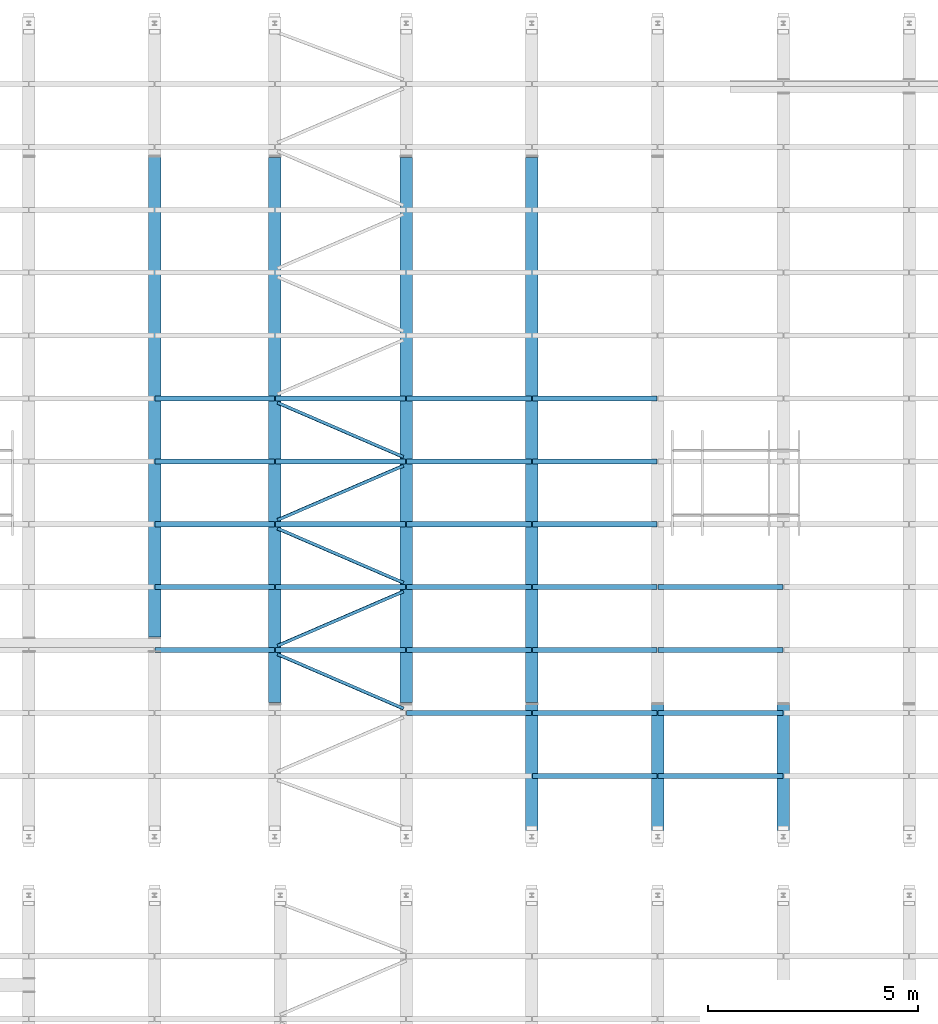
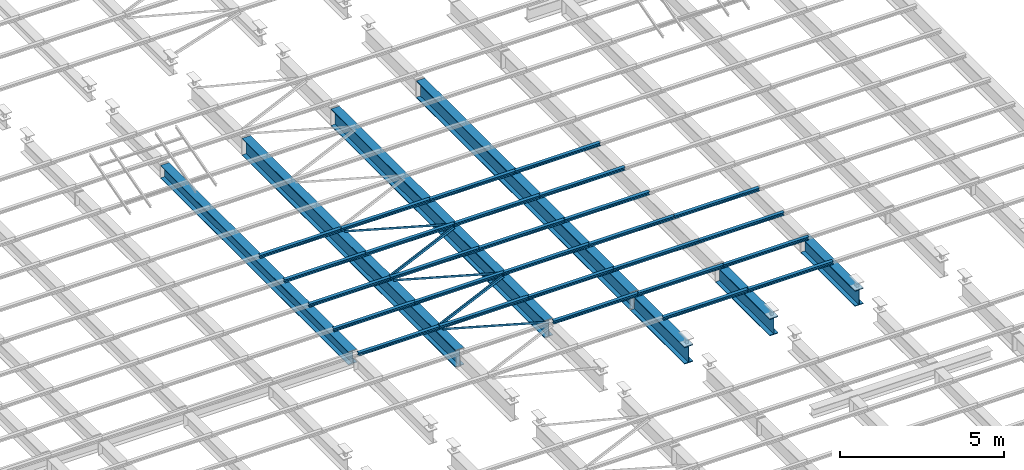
# One storey, part 48 of 139: 39 beams.
"""IFC2X3 building model written with IfcOpenShell, lengths in metres."""

from ifc_helpers import new_model, entity, si_unit, converted_unit, derived_unit, frame, origin, place, context, subcontext, project, spatial, polyline, outline, extrude, material, element, save


model = new_model("IFC2X3")

# Units and contexts
model_context = context("Model", 3, precision=1e-05, world=origin())
body_context = subcontext(model_context, "Body", "Model", "MODEL_VIEW")
ifc_project = project(units=[si_unit("LENGTHUNIT", "METRE"), si_unit("AREAUNIT", "SQUARE_METRE"), si_unit("VOLUMEUNIT", "CUBIC_METRE"), si_unit("MASSUNIT", "GRAM", prefix="KILO"), converted_unit("PLANEANGLEUNIT", "DEGREE", entity("IfcPlaneAngleMeasure", 0.0174532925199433), si_unit("PLANEANGLEUNIT", "RADIAN"), dimensions=[0, 0, 0, 0, 0, 0, 0]), derived_unit("THERMALTRANSMITTANCEUNIT", [(si_unit("POWERUNIT", "WATT"), 1), (si_unit("THERMODYNAMICTEMPERATUREUNIT", "KELVIN"), -1), (si_unit("LENGTHUNIT", "METRE"), -2)]), derived_unit("VOLUMETRICFLOWRATEUNIT", [(si_unit("LENGTHUNIT", "METRE"), 3), (converted_unit("TIMEUNIT", "hour", entity("IfcTimeMeasure", 3600.0), si_unit("TIMEUNIT", "SECOND"), dimensions=[0, 0, 1, 0, 0, 0, 0]), -1), (si_unit("LENGTHUNIT", "METRE"), -1)])], contexts=[model_context])

# Site, building, storey
site_placement = place(None, origin())
site = spatial("IfcSite", under=ifc_project, at=site_placement, Name="TWP_Speiseverteilzentrum SBW VZ II", CompositionType="ELEMENT")
building_placement = place(site_placement, origin())
building = spatial("IfcBuilding", under=site, at=building_placement, Name="Speiseverteilzentrum SBW VZ II", CompositionType="ELEMENT")
storey_placement = place(building_placement, frame((0.0, 0.0, 7.1307)))
storey = spatial("IfcBuildingStorey", under=building, at=storey_placement, Name="Wartung_FFB", CompositionType="ELEMENT", Elevation=7.1307)

# Beams
ifc_material_1 = material(Name="S235")
beam_1_placement = place(storey_placement, frame((49.0500000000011, 47.7020742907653, -0.51), z_axis=(0.0, 0.0, 1.0), x_axis=(-1.0, 0.0, 0.0)))
element("IfcBeam", 1, at=beam_1_placement, inside=storey, material=ifc_material_1, Name="Stahlträger", context=body_context, shape_type="SweptSolid", body=[
    extrude(outline(polyline([(-0.15, 0.32), (-0.15, 0.294), (-0.00675000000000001, 0.294), (-0.00675000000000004, -0.294), (-0.15, -0.294), (-0.15, -0.32), (0.15, -0.32), (0.15, -0.294), (0.00674999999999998, -0.294), (0.00675000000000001, 0.294), (0.15, 0.294), (0.15, 0.32), (-0.15, 0.32)])), frame((0.0, 0.0, 0.0), z_axis=(0.0, 1.0, 0.0), x_axis=(-1.0, 0.0, 0.0)), (0.0, 0.0, 1.0), 13.0041485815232),
])
ifc_material_2 = material(Name="S235")
beam_2_placement = place(storey_placement, frame((52.0500000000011, 47.7020742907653, -0.51), z_axis=(0.0, 0.0, 1.0), x_axis=(-1.0, 0.0, 0.0)))
element("IfcBeam", 2, at=beam_2_placement, inside=storey, material=ifc_material_2, Name="Stahlträger", context=body_context, shape_type="SweptSolid", body=[
    extrude(outline(polyline([(-0.15, 0.32), (-0.15, 0.294), (-0.00675000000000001, 0.294), (-0.00675000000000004, -0.294), (-0.15, -0.294), (-0.15, -0.32), (0.15, -0.32), (0.15, -0.294), (0.00674999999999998, -0.294), (0.00675000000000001, 0.294), (0.15, 0.294), (0.15, 0.32), (-0.15, 0.32)])), frame((0.0, 0.0, 0.0), z_axis=(0.0, 1.0, 0.0), x_axis=(-1.0, 0.0, 0.0)), (0.0, 0.0, 1.0), 13.0041485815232),
])
ifc_material_3 = material(Name="S235")
beam_3_placement = place(storey_placement, frame((43.0500000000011, 47.7070000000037, -0.435), z_axis=(0.0, 0.0, 1.0), x_axis=(-1.0, 0.0, 0.0)))
element("IfcBeam", 3, at=beam_3_placement, inside=storey, material=ifc_material_3, Name="Stahlträger", context=body_context, shape_type="SweptSolid", body=[
    extrude(outline(polyline([(-0.15, 0.245), (-0.15, 0.222), (-0.00599999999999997, 0.222), (-0.006, -0.222), (-0.15, -0.222), (-0.15, -0.245), (0.15, -0.245), (0.15, -0.222), (0.00600000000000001, -0.222), (0.00600000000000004, 0.222), (0.15, 0.222), (0.15, 0.245), (-0.15, 0.245)])), frame((0.0, 0.0, 0.0), z_axis=(0.0, 1.0, 0.0), x_axis=(-1.0, 0.0, 0.0)), (0.0, 0.0, 1.0), 11.4521521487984),
])
ifc_material_4 = material(Name="S235")
beam_4_placement = place(storey_placement, frame((45.9200000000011, 47.7020742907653, -0.51), z_axis=(0.0, 0.0, 1.0), x_axis=(-1.0, 0.0, 0.0)))
element("IfcBeam", 4, at=beam_4_placement, inside=storey, material=ifc_material_4, Name="Stahlträger", context=body_context, shape_type="SweptSolid", body=[
    extrude(outline(polyline([(-0.15, 0.32), (-0.15, 0.294), (-0.00675000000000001, 0.294), (-0.00675000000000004, -0.294), (-0.15, -0.294), (-0.15, -0.32), (0.15, -0.32), (0.15, -0.294), (0.00674999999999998, -0.294), (0.00675000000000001, 0.294), (0.15, 0.294), (0.15, 0.32), (-0.15, 0.32)])), frame((0.0, 0.0, 0.0), z_axis=(0.0, 1.0, 0.0), x_axis=(-1.0, 0.0, 0.0)), (0.0, 0.0, 1.0), 13.0041485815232),
])
ifc_material_5 = material(Name="S235")
beam_5_placement = place(storey_placement, frame((52.0500000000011, 34.6479257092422, -0.51), z_axis=(0.0, 0.0, 1.0), x_axis=(-1.0, 0.0, 0.0)))
element("IfcBeam", 5, at=beam_5_placement, inside=storey, material=ifc_material_5, Name="Stahlträger", context=body_context, shape_type="SweptSolid", body=[
    extrude(outline(polyline([(-0.15, 0.32), (-0.15, 0.294), (-0.00675000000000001, 0.294), (-0.00675000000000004, -0.294), (-0.15, -0.294), (-0.15, -0.32), (0.15, -0.32), (0.15, -0.294), (0.00674999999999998, -0.294), (0.00675000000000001, 0.294), (0.15, 0.294), (0.15, 0.32), (-0.15, 0.32)])), frame((0.0, 0.0, 0.0), z_axis=(0.0, 1.0, 0.0), x_axis=(-1.0, 0.0, 0.0)), (0.0, 0.0, 1.0), 3.29792570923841),
])
ifc_material_6 = material(Name="S235")
beam_6_placement = place(storey_placement, frame((55.0500000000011, 34.6479257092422, -0.51), z_axis=(0.0, 0.0, 1.0), x_axis=(-1.0, 0.0, 0.0)))
element("IfcBeam", 6, at=beam_6_placement, inside=storey, material=ifc_material_6, Name="Stahlträger", context=body_context, shape_type="SweptSolid", body=[
    extrude(outline(polyline([(-0.15, 0.32), (-0.15, 0.294), (-0.00675000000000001, 0.294), (-0.00675000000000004, -0.294), (-0.15, -0.294), (-0.15, -0.32), (0.15, -0.32), (0.15, -0.294), (0.00674999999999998, -0.294), (0.00675000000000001, 0.294), (0.15, 0.294), (0.15, 0.32), (-0.15, 0.32)])), frame((0.0, 0.0, 0.0), z_axis=(0.0, 1.0, 0.0), x_axis=(-1.0, 0.0, 0.0)), (0.0, 0.0, 1.0), 3.29792570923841),
])
ifc_material_7 = material(Name="S235")
beam_7_placement = place(storey_placement, frame((58.0500000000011, 34.6479257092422, -0.485), z_axis=(0.0, 0.0, 1.0), x_axis=(-1.0, 0.0, 0.0)))
element("IfcBeam", 7, at=beam_7_placement, inside=storey, material=ifc_material_7, Name="Stahlträger", context=body_context, shape_type="SweptSolid", body=[
    extrude(outline(polyline([(-0.15, 0.295), (-0.15, 0.27), (-0.0065, 0.27), (-0.00650000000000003, -0.27), (-0.15, -0.27), (-0.15, -0.295), (0.15, -0.295), (0.15, -0.27), (0.00649999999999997, -0.27), (0.00650000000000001, 0.27), (0.15, 0.27), (0.15, 0.295), (-0.15, 0.295)])), frame((0.0, 0.0, 0.0), z_axis=(0.0, 1.0, 0.0), x_axis=(-1.0, 0.0, 0.0)), (0.0, 0.0, 1.0), 3.29792570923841),
])
ifc_material_8 = material(Name="S235")
beam_8_placement = place(storey_placement, frame((49.0600000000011, 41.9500000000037, -0.133), z_axis=(0.0, 0.0, 1.0), x_axis=(0.0, -1.0, 0.0)))
element("IfcBeam", 8, at=beam_8_placement, inside=storey, material=ifc_material_8, Name="Nebenträger", context=body_context, shape_type="SweptSolid", body=[
    extrude(outline(polyline([(-0.06, 0.0570000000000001), (-0.06, 0.0490000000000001), (-0.00249999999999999, 0.0490000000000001), (-0.0025, -0.0489999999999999), (-0.06, -0.0489999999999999), (-0.06, -0.0569999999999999), (0.06, -0.0569999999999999), (0.06, -0.0489999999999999), (0.0025, -0.0489999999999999), (0.00250000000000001, 0.0490000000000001), (0.06, 0.0490000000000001), (0.06, 0.0570000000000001), (-0.06, 0.0570000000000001)])), frame((0.0, 0.0, 0.0), z_axis=(0.0, 1.0, 0.0), x_axis=(-1.0, 0.0, 0.0)), (0.0, 0.0, 1.0), 2.98),
])
ifc_material_9 = material(Name="S235")
beam_9_placement = place(storey_placement, frame((52.0600000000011, 41.9500000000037, -0.133), z_axis=(0.0, 0.0, 1.0), x_axis=(0.0, -1.0, 0.0)))
element("IfcBeam", 9, at=beam_9_placement, inside=storey, material=ifc_material_9, Name="Nebenträger", context=body_context, shape_type="SweptSolid", body=[
    extrude(outline(polyline([(-0.06, 0.0570000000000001), (-0.06, 0.0490000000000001), (-0.00249999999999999, 0.0490000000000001), (-0.0025, -0.0489999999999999), (-0.06, -0.0489999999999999), (-0.06, -0.0569999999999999), (0.06, -0.0569999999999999), (0.06, -0.0489999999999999), (0.0025, -0.0489999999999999), (0.00250000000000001, 0.0490000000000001), (0.06, 0.0490000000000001), (0.06, 0.0570000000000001), (-0.06, 0.0570000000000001)])), frame((0.0, 0.0, 0.0), z_axis=(0.0, 1.0, 0.0), x_axis=(-1.0, 0.0, 0.0)), (0.0, 0.0, 1.0), 2.98),
])
ifc_material_10 = material(Name="S235")
beam_10_placement = place(storey_placement, frame((49.0600000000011, 40.4500000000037, -0.133), z_axis=(0.0, 0.0, 1.0), x_axis=(0.0, -1.0, 0.0)))
element("IfcBeam", 10, at=beam_10_placement, inside=storey, material=ifc_material_10, Name="Nebenträger", context=body_context, shape_type="SweptSolid", body=[
    extrude(outline(polyline([(-0.06, 0.0570000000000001), (-0.06, 0.0490000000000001), (-0.00249999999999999, 0.0490000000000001), (-0.0025, -0.0489999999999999), (-0.06, -0.0489999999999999), (-0.06, -0.0569999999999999), (0.06, -0.0569999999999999), (0.06, -0.0489999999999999), (0.0025, -0.0489999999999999), (0.00250000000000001, 0.0490000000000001), (0.06, 0.0490000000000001), (0.06, 0.0570000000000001), (-0.06, 0.0570000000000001)])), frame((0.0, 0.0, 0.0), z_axis=(0.0, 1.0, 0.0), x_axis=(-1.0, 0.0, 0.0)), (0.0, 0.0, 1.0), 2.98),
])
ifc_material_11 = material(Name="S235")
beam_11_placement = place(storey_placement, frame((52.0600000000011, 40.4500000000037, -0.133), z_axis=(0.0, 0.0, 1.0), x_axis=(0.0, -1.0, 0.0)))
element("IfcBeam", 11, at=beam_11_placement, inside=storey, material=ifc_material_11, Name="Nebenträger", context=body_context, shape_type="SweptSolid", body=[
    extrude(outline(polyline([(-0.06, 0.0570000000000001), (-0.06, 0.0490000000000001), (-0.00249999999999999, 0.0490000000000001), (-0.0025, -0.0489999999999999), (-0.06, -0.0489999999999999), (-0.06, -0.0569999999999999), (0.06, -0.0569999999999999), (0.06, -0.0489999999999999), (0.0025, -0.0489999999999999), (0.00250000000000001, 0.0490000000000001), (0.06, 0.0490000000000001), (0.06, 0.0570000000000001), (-0.06, 0.0570000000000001)])), frame((0.0, 0.0, 0.0), z_axis=(0.0, 1.0, 0.0), x_axis=(-1.0, 0.0, 0.0)), (0.0, 0.0, 1.0), 2.98),
])
ifc_material_12 = material(Name="S235")
beam_12_placement = place(storey_placement, frame((49.0600000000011, 38.9500000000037, -0.133), z_axis=(0.0, 0.0, 1.0), x_axis=(0.0, -1.0, 0.0)))
element("IfcBeam", 12, at=beam_12_placement, inside=storey, material=ifc_material_12, Name="Nebenträger", context=body_context, shape_type="SweptSolid", body=[
    extrude(outline(polyline([(-0.06, 0.0570000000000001), (-0.06, 0.0490000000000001), (-0.00249999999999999, 0.0490000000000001), (-0.0025, -0.0489999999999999), (-0.06, -0.0489999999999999), (-0.06, -0.0569999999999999), (0.06, -0.0569999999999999), (0.06, -0.0489999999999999), (0.0025, -0.0489999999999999), (0.00250000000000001, 0.0490000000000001), (0.06, 0.0490000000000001), (0.06, 0.0570000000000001), (-0.06, 0.0570000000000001)])), frame((0.0, 0.0, 0.0), z_axis=(0.0, 1.0, 0.0), x_axis=(-1.0, 0.0, 0.0)), (0.0, 0.0, 1.0), 2.98),
])
ifc_material_13 = material(Name="S235")
beam_13_placement = place(storey_placement, frame((52.0600000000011, 38.9500000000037, -0.133), z_axis=(0.0, 0.0, 1.0), x_axis=(0.0, -1.0, 0.0)))
element("IfcBeam", 13, at=beam_13_placement, inside=storey, material=ifc_material_13, Name="Nebenträger", context=body_context, shape_type="SweptSolid", body=[
    extrude(outline(polyline([(-0.06, 0.0570000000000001), (-0.06, 0.0490000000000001), (-0.00249999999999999, 0.0490000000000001), (-0.0025, -0.0489999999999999), (-0.06, -0.0489999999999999), (-0.06, -0.0569999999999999), (0.06, -0.0569999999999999), (0.06, -0.0489999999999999), (0.0025, -0.0489999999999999), (0.00250000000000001, 0.0490000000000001), (0.06, 0.0490000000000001), (0.06, 0.0570000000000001), (-0.06, 0.0570000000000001)])), frame((0.0, 0.0, 0.0), z_axis=(0.0, 1.0, 0.0), x_axis=(-1.0, 0.0, 0.0)), (0.0, 0.0, 1.0), 2.98),
])
ifc_material_14 = material(Name="S235")
beam_14_placement = place(storey_placement, frame((49.0600000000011, 37.4500000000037, -0.133), z_axis=(0.0, 0.0, 1.0), x_axis=(0.0, -1.0, 0.0)))
element("IfcBeam", 14, at=beam_14_placement, inside=storey, material=ifc_material_14, Name="Nebenträger", context=body_context, shape_type="SweptSolid", body=[
    extrude(outline(polyline([(-0.06, 0.0570000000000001), (-0.06, 0.0490000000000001), (-0.00249999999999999, 0.0490000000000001), (-0.0025, -0.0489999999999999), (-0.06, -0.0489999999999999), (-0.06, -0.0569999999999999), (0.06, -0.0569999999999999), (0.06, -0.0489999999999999), (0.0025, -0.0489999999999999), (0.00250000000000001, 0.0490000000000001), (0.06, 0.0490000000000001), (0.06, 0.0570000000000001), (-0.06, 0.0570000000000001)])), frame((0.0, 0.0, 0.0), z_axis=(0.0, 1.0, 0.0), x_axis=(-1.0, 0.0, 0.0)), (0.0, 0.0, 1.0), 2.98),
])
ifc_material_15 = material(Name="S235")
beam_15_placement = place(storey_placement, frame((52.0600000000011, 37.4500000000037, -0.133), z_axis=(0.0, 0.0, 1.0), x_axis=(0.0, -1.0, 0.0)))
element("IfcBeam", 15, at=beam_15_placement, inside=storey, material=ifc_material_15, Name="Nebenträger", context=body_context, shape_type="SweptSolid", body=[
    extrude(outline(polyline([(-0.06, 0.0570000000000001), (-0.06, 0.0490000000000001), (-0.00249999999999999, 0.0490000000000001), (-0.0025, -0.0489999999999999), (-0.06, -0.0489999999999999), (-0.06, -0.0569999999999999), (0.06, -0.0569999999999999), (0.06, -0.0489999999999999), (0.0025, -0.0489999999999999), (0.00250000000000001, 0.0490000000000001), (0.06, 0.0490000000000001), (0.06, 0.0570000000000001), (-0.06, 0.0570000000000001)])), frame((0.0, 0.0, 0.0), z_axis=(0.0, 1.0, 0.0), x_axis=(-1.0, 0.0, 0.0)), (0.0, 0.0, 1.0), 2.98),
])
ifc_material_16 = material(Name="S235")
beam_16_placement = place(storey_placement, frame((55.0600000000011, 37.4500000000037, -0.133), z_axis=(0.0, 0.0, 1.0), x_axis=(0.0, -1.0, 0.0)))
element("IfcBeam", 16, at=beam_16_placement, inside=storey, material=ifc_material_16, Name="Nebenträger", context=body_context, shape_type="SweptSolid", body=[
    extrude(outline(polyline([(-0.06, 0.0570000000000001), (-0.06, 0.0490000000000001), (-0.00249999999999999, 0.0490000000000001), (-0.0025, -0.0489999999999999), (-0.06, -0.0489999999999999), (-0.06, -0.0569999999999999), (0.06, -0.0569999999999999), (0.06, -0.0489999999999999), (0.0025, -0.0489999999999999), (0.00250000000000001, 0.0490000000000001), (0.06, 0.0490000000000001), (0.06, 0.0570000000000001), (-0.06, 0.0570000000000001)])), frame((0.0, 0.0, 0.0), z_axis=(0.0, 1.0, 0.0), x_axis=(-1.0, 0.0, 0.0)), (0.0, 0.0, 1.0), 2.98),
])
ifc_material_17 = material(Name="S235")
beam_17_placement = place(storey_placement, frame((49.0600000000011, 35.9500000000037, -0.133), z_axis=(0.0, 0.0, 1.0), x_axis=(0.0, -1.0, 0.0)))
element("IfcBeam", 17, at=beam_17_placement, inside=storey, material=ifc_material_17, Name="Nebenträger", context=body_context, shape_type="SweptSolid", body=[
    extrude(outline(polyline([(-0.06, 0.0570000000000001), (-0.06, 0.0490000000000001), (-0.00249999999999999, 0.0490000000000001), (-0.0025, -0.0489999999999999), (-0.06, -0.0489999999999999), (-0.06, -0.0569999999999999), (0.06, -0.0569999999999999), (0.06, -0.0489999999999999), (0.0025, -0.0489999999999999), (0.00250000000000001, 0.0490000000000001), (0.06, 0.0490000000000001), (0.06, 0.0570000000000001), (-0.06, 0.0570000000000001)])), frame((0.0, 0.0, 0.0), z_axis=(0.0, 1.0, 0.0), x_axis=(-1.0, 0.0, 0.0)), (0.0, 0.0, 1.0), 2.98),
])
ifc_material_18 = material(Name="S235")
beam_18_placement = place(storey_placement, frame((52.0600000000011, 35.9500000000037, -0.133), z_axis=(0.0, 0.0, 1.0), x_axis=(0.0, -1.0, 0.0)))
element("IfcBeam", 18, at=beam_18_placement, inside=storey, material=ifc_material_18, Name="Nebenträger", context=body_context, shape_type="SweptSolid", body=[
    extrude(outline(polyline([(-0.06, 0.0570000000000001), (-0.06, 0.0490000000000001), (-0.00249999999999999, 0.0490000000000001), (-0.0025, -0.0489999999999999), (-0.06, -0.0489999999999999), (-0.06, -0.0569999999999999), (0.06, -0.0569999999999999), (0.06, -0.0489999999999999), (0.0025, -0.0489999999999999), (0.00250000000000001, 0.0490000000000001), (0.06, 0.0490000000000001), (0.06, 0.0570000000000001), (-0.06, 0.0570000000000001)])), frame((0.0, 0.0, 0.0), z_axis=(0.0, 1.0, 0.0), x_axis=(-1.0, 0.0, 0.0)), (0.0, 0.0, 1.0), 2.98),
])
ifc_material_19 = material(Name="S235")
beam_19_placement = place(storey_placement, frame((55.0600000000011, 35.9500000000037, -0.133), z_axis=(0.0, 0.0, 1.0), x_axis=(0.0, -1.0, 0.0)))
element("IfcBeam", 19, at=beam_19_placement, inside=storey, material=ifc_material_19, Name="Nebenträger", context=body_context, shape_type="SweptSolid", body=[
    extrude(outline(polyline([(-0.06, 0.0570000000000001), (-0.06, 0.0490000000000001), (-0.00249999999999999, 0.0490000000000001), (-0.0025, -0.0489999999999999), (-0.06, -0.0489999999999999), (-0.06, -0.0569999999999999), (0.06, -0.0569999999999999), (0.06, -0.0489999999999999), (0.0025, -0.0489999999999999), (0.00250000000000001, 0.0490000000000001), (0.06, 0.0490000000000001), (0.06, 0.0570000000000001), (-0.06, 0.0570000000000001)])), frame((0.0, 0.0, 0.0), z_axis=(0.0, 1.0, 0.0), x_axis=(-1.0, 0.0, 0.0)), (0.0, 0.0, 1.0), 2.98),
])
ifc_material_20 = material(Name="S235")
beam_20_placement = place(storey_placement, frame((49.0600000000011, 34.4500000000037, -0.133), z_axis=(0.0, 0.0, 1.0), x_axis=(0.0, -1.0, 0.0)))
element("IfcBeam", 20, at=beam_20_placement, inside=storey, material=ifc_material_20, Name="Nebenträger", context=body_context, shape_type="SweptSolid", body=[
    extrude(outline(polyline([(-0.06, 0.0570000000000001), (-0.06, 0.0490000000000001), (-0.00249999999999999, 0.0490000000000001), (-0.0025, -0.0489999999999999), (-0.06, -0.0489999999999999), (-0.06, -0.0569999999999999), (0.06, -0.0569999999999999), (0.06, -0.0489999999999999), (0.0025, -0.0489999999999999), (0.00250000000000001, 0.0490000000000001), (0.06, 0.0490000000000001), (0.06, 0.0570000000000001), (-0.06, 0.0570000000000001)])), frame((0.0, 0.0, 0.0), z_axis=(0.0, 1.0, 0.0), x_axis=(-1.0, 0.0, 0.0)), (0.0, 0.0, 1.0), 2.98),
])
ifc_material_21 = material(Name="S235")
beam_21_placement = place(storey_placement, frame((52.0600000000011, 34.4500000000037, -0.133), z_axis=(0.0, 0.0, 1.0), x_axis=(0.0, -1.0, 0.0)))
element("IfcBeam", 21, at=beam_21_placement, inside=storey, material=ifc_material_21, Name="Nebenträger", context=body_context, shape_type="SweptSolid", body=[
    extrude(outline(polyline([(-0.06, 0.0570000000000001), (-0.06, 0.0490000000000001), (-0.00249999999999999, 0.0490000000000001), (-0.0025, -0.0489999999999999), (-0.06, -0.0489999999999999), (-0.06, -0.0569999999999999), (0.06, -0.0569999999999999), (0.06, -0.0489999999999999), (0.0025, -0.0489999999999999), (0.00250000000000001, 0.0490000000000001), (0.06, 0.0490000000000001), (0.06, 0.0570000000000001), (-0.06, 0.0570000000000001)])), frame((0.0, 0.0, 0.0), z_axis=(0.0, 1.0, 0.0), x_axis=(-1.0, 0.0, 0.0)), (0.0, 0.0, 1.0), 2.98),
])
ifc_material_22 = material(Name="S235")
beam_22_placement = place(storey_placement, frame((55.0600000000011, 34.4500000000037, -0.133), z_axis=(0.0, 0.0, 1.0), x_axis=(0.0, -1.0, 0.0)))
element("IfcBeam", 22, at=beam_22_placement, inside=storey, material=ifc_material_22, Name="Nebenträger", context=body_context, shape_type="SweptSolid", body=[
    extrude(outline(polyline([(-0.06, 0.0570000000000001), (-0.06, 0.0490000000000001), (-0.00249999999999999, 0.0490000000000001), (-0.0025, -0.0489999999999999), (-0.06, -0.0489999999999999), (-0.06, -0.0569999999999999), (0.06, -0.0569999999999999), (0.06, -0.0489999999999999), (0.0025, -0.0489999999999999), (0.00250000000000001, 0.0490000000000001), (0.06, 0.0490000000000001), (0.06, 0.0570000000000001), (-0.06, 0.0570000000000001)])), frame((0.0, 0.0, 0.0), z_axis=(0.0, 1.0, 0.0), x_axis=(-1.0, 0.0, 0.0)), (0.0, 0.0, 1.0), 2.98),
])
ifc_material_23 = material(Name="S235")
beam_23_placement = place(storey_placement, frame((52.0600000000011, 32.9500000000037, -0.133), z_axis=(0.0, 0.0, 1.0), x_axis=(0.0, -1.0, 0.0)))
element("IfcBeam", 23, at=beam_23_placement, inside=storey, material=ifc_material_23, Name="Nebenträger", context=body_context, shape_type="SweptSolid", body=[
    extrude(outline(polyline([(-0.06, 0.0570000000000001), (-0.06, 0.0490000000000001), (-0.00249999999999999, 0.0490000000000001), (-0.0025, -0.0489999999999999), (-0.06, -0.0489999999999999), (-0.06, -0.0569999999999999), (0.06, -0.0569999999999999), (0.06, -0.0489999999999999), (0.0025, -0.0489999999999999), (0.00250000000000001, 0.0490000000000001), (0.06, 0.0490000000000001), (0.06, 0.0570000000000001), (-0.06, 0.0570000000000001)])), frame((0.0, 0.0, 0.0), z_axis=(0.0, 1.0, 0.0), x_axis=(-1.0, 0.0, 0.0)), (0.0, 0.0, 1.0), 2.98),
])
ifc_material_24 = material(Name="S235")
beam_24_placement = place(storey_placement, frame((55.0600000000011, 32.9500000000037, -0.133), z_axis=(0.0, 0.0, 1.0), x_axis=(0.0, -1.0, 0.0)))
element("IfcBeam", 24, at=beam_24_placement, inside=storey, material=ifc_material_24, Name="Nebenträger", context=body_context, shape_type="SweptSolid", body=[
    extrude(outline(polyline([(-0.06, 0.0570000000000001), (-0.06, 0.0490000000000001), (-0.00249999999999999, 0.0490000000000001), (-0.0025, -0.0489999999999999), (-0.06, -0.0489999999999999), (-0.06, -0.0569999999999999), (0.06, -0.0569999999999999), (0.06, -0.0489999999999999), (0.0025, -0.0489999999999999), (0.00250000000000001, 0.0490000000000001), (0.06, 0.0490000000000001), (0.06, 0.0570000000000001), (-0.06, 0.0570000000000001)])), frame((0.0, 0.0, 0.0), z_axis=(0.0, 1.0, 0.0), x_axis=(-1.0, 0.0, 0.0)), (0.0, 0.0, 1.0), 2.98),
])
ifc_material_25 = material(Name="S235")
beam_25_placement = place(storey_placement, frame((43.0600000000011, 41.9500000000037, -0.133), z_axis=(0.0, 0.0, 1.0), x_axis=(0.0, -1.0, 0.0)))
element("IfcBeam", 25, at=beam_25_placement, inside=storey, material=ifc_material_25, Name="Nebenträger", context=body_context, shape_type="SweptSolid", body=[
    extrude(outline(polyline([(-0.06, 0.0570000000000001), (-0.06, 0.0490000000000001), (-0.00249999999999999, 0.0490000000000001), (-0.0025, -0.0489999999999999), (-0.06, -0.0489999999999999), (-0.06, -0.0569999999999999), (0.06, -0.0569999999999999), (0.06, -0.0489999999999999), (0.0025, -0.0489999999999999), (0.00250000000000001, 0.0490000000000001), (0.06, 0.0490000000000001), (0.06, 0.0570000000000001), (-0.06, 0.0570000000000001)])), frame((0.0, 0.0, 0.0), z_axis=(0.0, 1.0, 0.0), x_axis=(-1.0, 0.0, 0.0)), (0.0, 0.0, 1.0), 2.84999999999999),
])
ifc_material_26 = material(Name="S235")
beam_26_placement = place(storey_placement, frame((45.9300000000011, 41.9500000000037, -0.133), z_axis=(0.0, 0.0, 1.0), x_axis=(0.0, -1.0, 0.0)))
element("IfcBeam", 26, at=beam_26_placement, inside=storey, material=ifc_material_26, Name="Nebenträger", context=body_context, shape_type="SweptSolid", body=[
    extrude(outline(polyline([(-0.06, 0.0570000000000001), (-0.06, 0.0490000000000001), (-0.00249999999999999, 0.0490000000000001), (-0.0025, -0.0489999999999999), (-0.06, -0.0489999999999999), (-0.06, -0.0569999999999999), (0.06, -0.0569999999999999), (0.06, -0.0489999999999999), (0.0025, -0.0489999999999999), (0.00250000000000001, 0.0490000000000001), (0.06, 0.0490000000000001), (0.06, 0.0570000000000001), (-0.06, 0.0570000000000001)])), frame((0.0, 0.0, 0.0), z_axis=(0.0, 1.0, 0.0), x_axis=(-1.0, 0.0, 0.0)), (0.0, 0.0, 1.0), 3.11000000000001),
])
ifc_material_27 = material(Name="S235")
beam_27_placement = place(storey_placement, frame((43.0600000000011, 40.4500000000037, -0.133), z_axis=(0.0, 0.0, 1.0), x_axis=(0.0, -1.0, 0.0)))
element("IfcBeam", 27, at=beam_27_placement, inside=storey, material=ifc_material_27, Name="Nebenträger", context=body_context, shape_type="SweptSolid", body=[
    extrude(outline(polyline([(-0.06, 0.0570000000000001), (-0.06, 0.0490000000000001), (-0.00249999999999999, 0.0490000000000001), (-0.0025, -0.0489999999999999), (-0.06, -0.0489999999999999), (-0.06, -0.0569999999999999), (0.06, -0.0569999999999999), (0.06, -0.0489999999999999), (0.0025, -0.0489999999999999), (0.00250000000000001, 0.0490000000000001), (0.06, 0.0490000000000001), (0.06, 0.0570000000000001), (-0.06, 0.0570000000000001)])), frame((0.0, 0.0, 0.0), z_axis=(0.0, 1.0, 0.0), x_axis=(-1.0, 0.0, 0.0)), (0.0, 0.0, 1.0), 2.84999999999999),
])
ifc_material_28 = material(Name="S235")
beam_28_placement = place(storey_placement, frame((45.9300000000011, 40.4500000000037, -0.133), z_axis=(0.0, 0.0, 1.0), x_axis=(0.0, -1.0, 0.0)))
element("IfcBeam", 28, at=beam_28_placement, inside=storey, material=ifc_material_28, Name="Nebenträger", context=body_context, shape_type="SweptSolid", body=[
    extrude(outline(polyline([(-0.06, 0.0570000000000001), (-0.06, 0.0490000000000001), (-0.00249999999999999, 0.0490000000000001), (-0.0025, -0.0489999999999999), (-0.06, -0.0489999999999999), (-0.06, -0.0569999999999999), (0.06, -0.0569999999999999), (0.06, -0.0489999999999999), (0.0025, -0.0489999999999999), (0.00250000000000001, 0.0490000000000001), (0.06, 0.0490000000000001), (0.06, 0.0570000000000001), (-0.06, 0.0570000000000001)])), frame((0.0, 0.0, 0.0), z_axis=(0.0, 1.0, 0.0), x_axis=(-1.0, 0.0, 0.0)), (0.0, 0.0, 1.0), 3.11000000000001),
])
ifc_material_29 = material(Name="S235")
beam_29_placement = place(storey_placement, frame((43.0600000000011, 38.9500000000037, -0.133), z_axis=(0.0, 0.0, 1.0), x_axis=(0.0, -1.0, 0.0)))
element("IfcBeam", 29, at=beam_29_placement, inside=storey, material=ifc_material_29, Name="Nebenträger", context=body_context, shape_type="SweptSolid", body=[
    extrude(outline(polyline([(-0.06, 0.0570000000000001), (-0.06, 0.0490000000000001), (-0.00249999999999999, 0.0490000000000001), (-0.0025, -0.0489999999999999), (-0.06, -0.0489999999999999), (-0.06, -0.0569999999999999), (0.06, -0.0569999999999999), (0.06, -0.0489999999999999), (0.0025, -0.0489999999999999), (0.00250000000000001, 0.0490000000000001), (0.06, 0.0490000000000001), (0.06, 0.0570000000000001), (-0.06, 0.0570000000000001)])), frame((0.0, 0.0, 0.0), z_axis=(0.0, 1.0, 0.0), x_axis=(-1.0, 0.0, 0.0)), (0.0, 0.0, 1.0), 2.84999999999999),
])
ifc_material_30 = material(Name="S235")
beam_30_placement = place(storey_placement, frame((45.9300000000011, 38.9500000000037, -0.133), z_axis=(0.0, 0.0, 1.0), x_axis=(0.0, -1.0, 0.0)))
element("IfcBeam", 30, at=beam_30_placement, inside=storey, material=ifc_material_30, Name="Nebenträger", context=body_context, shape_type="SweptSolid", body=[
    extrude(outline(polyline([(-0.06, 0.0570000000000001), (-0.06, 0.0490000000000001), (-0.00249999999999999, 0.0490000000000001), (-0.0025, -0.0489999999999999), (-0.06, -0.0489999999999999), (-0.06, -0.0569999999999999), (0.06, -0.0569999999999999), (0.06, -0.0489999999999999), (0.0025, -0.0489999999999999), (0.00250000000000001, 0.0490000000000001), (0.06, 0.0490000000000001), (0.06, 0.0570000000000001), (-0.06, 0.0570000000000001)])), frame((0.0, 0.0, 0.0), z_axis=(0.0, 1.0, 0.0), x_axis=(-1.0, 0.0, 0.0)), (0.0, 0.0, 1.0), 3.11000000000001),
])
ifc_material_31 = material(Name="S235")
beam_31_placement = place(storey_placement, frame((43.0600000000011, 37.4500000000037, -0.133), z_axis=(0.0, 0.0, 1.0), x_axis=(0.0, -1.0, 0.0)))
element("IfcBeam", 31, at=beam_31_placement, inside=storey, material=ifc_material_31, Name="Nebenträger", context=body_context, shape_type="SweptSolid", body=[
    extrude(outline(polyline([(-0.06, 0.0570000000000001), (-0.06, 0.0490000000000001), (-0.00249999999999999, 0.0490000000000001), (-0.0025, -0.0489999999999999), (-0.06, -0.0489999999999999), (-0.06, -0.0569999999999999), (0.06, -0.0569999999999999), (0.06, -0.0489999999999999), (0.0025, -0.0489999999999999), (0.00250000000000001, 0.0490000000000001), (0.06, 0.0490000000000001), (0.06, 0.0570000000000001), (-0.06, 0.0570000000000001)])), frame((0.0, 0.0, 0.0), z_axis=(0.0, 1.0, 0.0), x_axis=(-1.0, 0.0, 0.0)), (0.0, 0.0, 1.0), 2.84999999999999),
])
ifc_material_32 = material(Name="S235")
beam_32_placement = place(storey_placement, frame((45.9300000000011, 37.4500000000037, -0.133), z_axis=(0.0, 0.0, 1.0), x_axis=(0.0, -1.0, 0.0)))
element("IfcBeam", 32, at=beam_32_placement, inside=storey, material=ifc_material_32, Name="Nebenträger", context=body_context, shape_type="SweptSolid", body=[
    extrude(outline(polyline([(-0.06, 0.0570000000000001), (-0.06, 0.0490000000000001), (-0.00249999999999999, 0.0490000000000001), (-0.0025, -0.0489999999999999), (-0.06, -0.0489999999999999), (-0.06, -0.0569999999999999), (0.06, -0.0569999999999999), (0.06, -0.0489999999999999), (0.0025, -0.0489999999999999), (0.00250000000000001, 0.0490000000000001), (0.06, 0.0490000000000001), (0.06, 0.0570000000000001), (-0.06, 0.0570000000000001)])), frame((0.0, 0.0, 0.0), z_axis=(0.0, 1.0, 0.0), x_axis=(-1.0, 0.0, 0.0)), (0.0, 0.0, 1.0), 3.11000000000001),
])
ifc_material_33 = material(Name="S235")
beam_33_placement = place(storey_placement, frame((43.0600000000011, 35.9500000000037, -0.133), z_axis=(0.0, 0.0, 1.0), x_axis=(0.0, -1.0, 0.0)))
element("IfcBeam", 33, at=beam_33_placement, inside=storey, material=ifc_material_33, Name="Nebenträger", context=body_context, shape_type="SweptSolid", body=[
    extrude(outline(polyline([(-0.06, 0.0570000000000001), (-0.06, 0.0490000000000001), (-0.00249999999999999, 0.0490000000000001), (-0.0025, -0.0489999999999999), (-0.06, -0.0489999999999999), (-0.06, -0.0569999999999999), (0.06, -0.0569999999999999), (0.06, -0.0489999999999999), (0.0025, -0.0489999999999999), (0.00250000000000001, 0.0490000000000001), (0.06, 0.0490000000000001), (0.06, 0.0570000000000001), (-0.06, 0.0570000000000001)])), frame((0.0, 0.0, 0.0), z_axis=(0.0, 1.0, 0.0), x_axis=(-1.0, 0.0, 0.0)), (0.0, 0.0, 1.0), 2.84999999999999),
])
ifc_material_34 = material(Name="S235")
beam_34_placement = place(storey_placement, frame((45.9300000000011, 35.9500000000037, -0.133), z_axis=(0.0, 0.0, 1.0), x_axis=(0.0, -1.0, 0.0)))
element("IfcBeam", 34, at=beam_34_placement, inside=storey, material=ifc_material_34, Name="Nebenträger", context=body_context, shape_type="SweptSolid", body=[
    extrude(outline(polyline([(-0.06, 0.0570000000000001), (-0.06, 0.0490000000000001), (-0.00249999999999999, 0.0490000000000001), (-0.0025, -0.0489999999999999), (-0.06, -0.0489999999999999), (-0.06, -0.0569999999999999), (0.06, -0.0569999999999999), (0.06, -0.0489999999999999), (0.0025, -0.0489999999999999), (0.00250000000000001, 0.0490000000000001), (0.06, 0.0490000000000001), (0.06, 0.0570000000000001), (-0.06, 0.0570000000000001)])), frame((0.0, 0.0, 0.0), z_axis=(0.0, 1.0, 0.0), x_axis=(-1.0, 0.0, 0.0)), (0.0, 0.0, 1.0), 3.11000000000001),
])
ifc_material_35 = material(Name="S235")
beam_35_placement = place(storey_placement, frame((45.9756913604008, 36.0683930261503, -0.167052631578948), z_axis=(0.0, 0.0, 1.0), x_axis=(0.395932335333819, -0.91827968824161, 0.0)))
element("IfcBeam", 35, at=beam_35_placement, inside=storey, material=ifc_material_35, Name="Kreuzverband", context=body_context, shape_type="SweptSolid", body=[
    extrude(outline(polyline([(0.0229473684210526, -0.0229473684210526), (0.0229473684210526, 0.0570526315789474), (0.0149473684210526, 0.0570526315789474), (0.0149473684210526, -0.0149473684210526), (-0.0570526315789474, -0.0149473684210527), (-0.0570526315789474, -0.0229473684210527), (0.0229473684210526, -0.0229473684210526)])), frame((0.0, 0.0, 0.0), z_axis=(0.0, 0.999999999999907, 0.0), x_axis=(-1.0, 0.0, 0.0)), (0.0, 0.0, 1.0), 3.27000000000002),
])
ifc_material_36 = material(Name="S235")
beam_36_placement = place(storey_placement, frame((45.9756913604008, 38.8316069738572, -0.167052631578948), z_axis=(0.0, 0.0, 1.0), x_axis=(-0.395932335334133, -0.918279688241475, 0.0)))
element("IfcBeam", 36, at=beam_36_placement, inside=storey, material=ifc_material_36, Name="Kreuzverband", context=body_context, shape_type="SweptSolid", body=[
    extrude(outline(polyline([(0.0570526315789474, -0.0229473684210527), (0.0570526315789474, -0.0149473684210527), (-0.0149473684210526, -0.0149473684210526), (-0.0149473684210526, 0.0570526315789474), (-0.0229473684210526, 0.0570526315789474), (-0.0229473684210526, -0.0229473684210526), (0.0570526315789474, -0.0229473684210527)])), frame((0.0, 0.0, 0.0), z_axis=(0.0, 1.00000000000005, 0.0), x_axis=(-1.0, 0.0, 0.0)), (0.0, 0.0, 1.0), 3.27000000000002),
])
ifc_material_37 = material(Name="S235")
beam_37_placement = place(storey_placement, frame((45.9756913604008, 39.0683930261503, -0.167052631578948), z_axis=(0.0, 0.0, 1.0), x_axis=(0.395932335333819, -0.91827968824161, 0.0)))
element("IfcBeam", 37, at=beam_37_placement, inside=storey, material=ifc_material_37, Name="Kreuzverband", context=body_context, shape_type="SweptSolid", body=[
    extrude(outline(polyline([(0.0229473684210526, -0.0229473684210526), (0.0229473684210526, 0.0570526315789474), (0.0149473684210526, 0.0570526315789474), (0.0149473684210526, -0.0149473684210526), (-0.0570526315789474, -0.0149473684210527), (-0.0570526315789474, -0.0229473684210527), (0.0229473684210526, -0.0229473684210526)])), frame((0.0, 0.0, 0.0), z_axis=(0.0, 0.999999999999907, 0.0), x_axis=(-1.0, 0.0, 0.0)), (0.0, 0.0, 1.0), 3.27000000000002),
])
ifc_material_38 = material(Name="S235")
beam_38_placement = place(storey_placement, frame((45.9756913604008, 41.8316069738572, -0.167052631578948), z_axis=(0.0, 0.0, 1.0), x_axis=(-0.395932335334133, -0.918279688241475, 0.0)))
element("IfcBeam", 38, at=beam_38_placement, inside=storey, material=ifc_material_38, Name="Kreuzverband", context=body_context, shape_type="SweptSolid", body=[
    extrude(outline(polyline([(0.0570526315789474, -0.0229473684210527), (0.0570526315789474, -0.0149473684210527), (-0.0149473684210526, -0.0149473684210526), (-0.0149473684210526, 0.0570526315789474), (-0.0229473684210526, 0.0570526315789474), (-0.0229473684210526, -0.0229473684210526), (0.0570526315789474, -0.0229473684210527)])), frame((0.0, 0.0, 0.0), z_axis=(0.0, 1.00000000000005, 0.0), x_axis=(-1.0, 0.0, 0.0)), (0.0, 0.0, 1.0), 3.27000000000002),
])
ifc_material_39 = material(Name="S235")
beam_39_placement = place(storey_placement, frame((45.9756913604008, 35.8316069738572, -0.167052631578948), z_axis=(0.0, 0.0, 1.0), x_axis=(-0.395932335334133, -0.918279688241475, 0.0)))
element("IfcBeam", 39, at=beam_39_placement, inside=storey, material=ifc_material_39, Name="Kreuzverband", context=body_context, shape_type="SweptSolid", body=[
    extrude(outline(polyline([(0.0570526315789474, -0.0229473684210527), (0.0570526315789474, -0.0149473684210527), (-0.0149473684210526, -0.0149473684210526), (-0.0149473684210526, 0.0570526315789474), (-0.0229473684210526, 0.0570526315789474), (-0.0229473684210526, -0.0229473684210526), (0.0570526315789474, -0.0229473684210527)])), frame((0.0, 0.0, 0.0), z_axis=(0.0, 1.00000000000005, 0.0), x_axis=(-1.0, 0.0, 0.0)), (0.0, 0.0, 1.0), 3.27000000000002),
])

save(model, "model.ifc")
